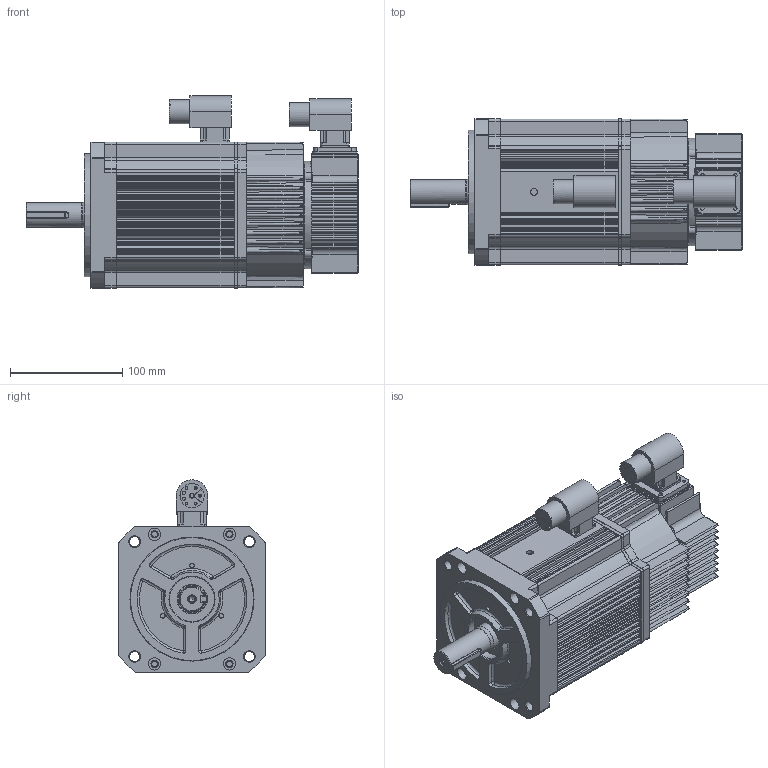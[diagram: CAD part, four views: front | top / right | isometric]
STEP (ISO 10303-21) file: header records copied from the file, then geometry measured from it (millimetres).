
FILE_DESCRIPTION( ( 'Unknown' ), '1' );
FILE_NAME( 'C:/Documents and Settings/chasechiu/桌面/2D&3D帶煞/DTSB13102C3/DTSB13152B3BG3D0K & DTSB13152B-380V機種 & DTSB13202C3BG3D0K.stp', 'Unknown', ( 'Unknown' ), ( 'Unknown' ), 'PSStep 14.0', 'Unknown', ' ' );
FILE_SCHEMA( ( 'AUTOMOTIVE_DESIGN { 1 0 10303 214 1 1 1 1 }' ) );
Length unit declared in the file: millimetre
Products named in the file (14): 0S180JSB7BA0P-00_0; 0S331JSA0BP01-00_0; Assem1; 0S302J0A1BP01-01_0; 0S363JD0584BP-01_0; ___(_擗); ___(___δ_; 0S861JA152111-02; \X2\50C5524D7AEF542B937569FD8EF\X0\; \X2\51F8625867B\X0\; \X2\4FDD84C\X0\; 1KW\X2\4EE54E0A752853F05EA\X0\; \X2\8ECD898F96326C34588A724\X0\; \X2\937\X0\
Assembly tree (13 placements, depth 3):
  Assem1
    0S302J0A1BP01-01_0
    0S363JD0584BP-01_0
    ___(_擗)
    ___(___δ_
    0S861JA152111-02
    \X2\50C5524D7AEF542B937569FD8EF\X0\
    \X2\51F8625867B\X0\
    \X2\4FDD84C\X0\
    1KW\X2\4EE54E0A752853F05EA\X0\
    \X2\8ECD898F96326C34588A724\X0\
    \X2\937\X0\
    0S180JSB7BA0P-00_0
      0S331JSA0BP01-00_0
Bounding box: 296.3 x 130.4 x 171.6 mm (x, y, z)
Volume: 3239775 mm3; surface area: 375286.4 mm2
Topology: 12 solids, 12 shells, 1747 faces, 4627 edges, 2968 vertices
Faces by surface type: cylinder 773, plane 663, torus 147, bspline 78, cone 66, sphere 20
Full cylindrical faces by diameter (mm): 1.5 x17, 1.926 x2, 1.985 x1, 2.013 x4, 2.4 x2, 2.459 x6, 2.5 x4, 2.585 x2, 2.611 x2, 2.621 x4, 2.637 x1, 2.7 x8, 2.834 x2, 3 x4, 3.25 x4, 3.5 x8, 3.746 x1, 4 x3, 4.134 x3, 5 x9, 6 x2, 6.2 x1, 6.5 x12, 9 x4, 11 x4, 20 x2, 21.5 x2, 22 x1, 24 x1, 24.9 x1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
Entity records: 76411 total; most frequent: CARTESIAN_POINT 19342, DIRECTION 9247, ORIENTED_EDGE 8732, EDGE_CURVE 4366, AXIS2_PLACEMENT_3D 3626, VERTEX_POINT 2897, EDGE_LOOP 2089, LINE 1995
